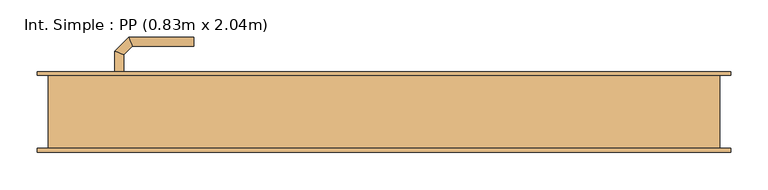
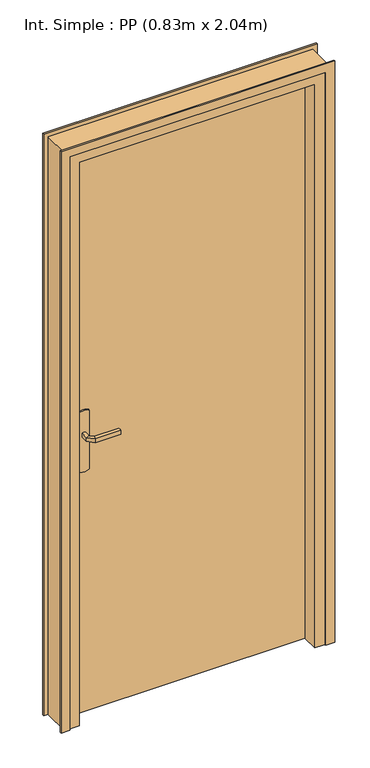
"""IFC4 building model written with IfcOpenShell, lengths in millimetres: door geometry, Int. Simple : PP (0.83m x 2.04m)."""

from ifc_helpers import new_model, si_unit, point, frame, frame_2d, origin, origin_with_axes, place, context, project, spatial, polyline, circle_curve, ellipse_curve, trimmed, segment, composite_curve, outline, extrude, faceted_brep, source, transform, mapped, element, save
from ifc_brep_helpers import plane_surface, cylinder_surface, advanced_brep


def int_simple_pp_0_83m_x_2_04m_020da29c(model_context):
    return source(origin(), model_context, "Body", "SolidModel", [
        extrude(outline(composite_curve([segment(trimmed(circle_curve(frame_2d((904.6410162, -390.0)), 40.0), [point((870.0, -410.0))], [point((870.0, -370.0))], False, "CARTESIAN"), True, "CONTINUOUS"), segment(polyline([(870.0, -370.0), (1080.0, -370.0)]), True, "CONTINUOUS"), segment(trimmed(circle_curve(frame_2d((1045.3589838, -390.0)), 40.0), [point((1080.0, -370.0))], [point((1080.0, -410.0))], False, "CARTESIAN"), True, "CONTINUOUS"), segment(polyline([(1080.0, -410.0), (870.0, -410.0)]), True, "CONTINUOUS")], self_intersect=False)), frame((0.0, 49.0, 0.0), z_axis=(0.0, 1.0, 0.0), x_axis=(0.0, 0.0, 1.0)), (0.0, 0.0, 1.0), 5.0),
        extrude(outline(composite_curve([segment(trimmed(circle_curve(frame_2d((1045.3589838, -390.0)), 40.0), [point((1080.0, -370.0))], [point((1080.0, -410.0))], False, "CARTESIAN"), True, "CONTINUOUS"), segment(polyline([(1080.0, -410.0), (870.0, -410.0)]), True, "CONTINUOUS"), segment(trimmed(circle_curve(frame_2d((904.6410162, -390.0)), 40.0), [point((870.0, -410.0))], [point((870.0, -370.0))], False, "CARTESIAN"), True, "CONTINUOUS"), segment(polyline([(870.0, -370.0), (1080.0, -370.0)]), True, "CONTINUOUS")], self_intersect=False)), frame((0.0, 4.0, 0.0), z_axis=(0.0, 1.0, 0.0), x_axis=(0.0, 0.0, 1.0)), (0.0, 0.0, 1.0), 5.0),
        advanced_brep(
        [(-396.0, 54.0, 1007.0), (-396.0, 54.0, 993.0), (-384.0, 54.0, 993.0), (-384.0, 54.0, 1007.0), (-384.0, 76.680388, 1007.0), (-396.0, 81.6509507, 1007.0), (-384.0, 76.680388, 993.0), (-396.0, 81.6509507, 993.0), (-372.6522273, 88.0281607, 1007.0), (-377.62279, 100.0281607, 1007.0), (-372.6522273, 88.0281607, 993.0), (-377.62279, 100.0281607, 993.0), (-289.9813594, 100.0281607, 1007.0), (-289.9813594, 88.0281607, 1007.0), (-289.9813594, 88.0281607, 993.0), (-289.9813594, 100.0281607, 993.0)],
        [
            (0, 1),
            (1, 2, circle_curve(frame((-390.0, 54.0, 1013.0457722), z_axis=(0.0, -1.0, 0.0), x_axis=(1.0, 0.0, 0.0)), 20.9244589)),
            (2, 3),
            (3, 0, circle_curve(frame((-390.0, 54.0, 986.9542278), z_axis=(0.0, -1.0, 0.0), x_axis=(1.0, 0.0, 0.0)), 20.9244589)),
            (3, 4),
            (4, 5, ellipse_curve(frame((-390.0, 79.1656693, 986.9542278), z_axis=(-0.3826834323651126, -0.9238795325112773, 0.0), x_axis=(0.9238795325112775, -0.38268343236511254, 0.0)), 22.6484711, 20.9244589)),
            (5, 0),
            (2, 6),
            (6, 4),
            (1, 7),
            (7, 6, ellipse_curve(frame((-390.0, 79.1656693, 1013.0457722), z_axis=(-0.3826834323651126, -0.9238795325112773, 0.0), x_axis=(0.9238795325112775, -0.38268343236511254, 0.0)), 22.6484711, 20.9244589)),
            (5, 7),
            (4, 8),
            (8, 9, ellipse_curve(frame((-375.1375086, 94.0281607, 986.9542278), z_axis=(-0.9238795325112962, -0.38268343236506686, 0.0), x_axis=(0.3826834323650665, -0.9238795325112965, 0.0)), 22.6484711, 20.9244589)),
            (9, 5),
            (6, 10),
            (10, 8),
            (7, 11),
            (11, 10, ellipse_curve(frame((-375.1375086, 94.0281607, 1013.0457722), z_axis=(-0.9238795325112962, -0.38268343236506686, 0.0), x_axis=(0.3826834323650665, -0.9238795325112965, 0.0)), 22.6484711, 20.9244589)),
            (9, 11),
            (12, 13, circle_curve(frame((-289.9813594, 94.0281607, 986.9542278), z_axis=(1.0, 0.0, 0.0), x_axis=(0.0, -1.0, 0.0)), 20.9244589)),
            (13, 14),
            (14, 15, circle_curve(frame((-289.9813594, 94.0281607, 1013.0457722), z_axis=(1.0, 0.0, 0.0), x_axis=(0.0, -1.0, 0.0)), 20.9244589)),
            (15, 12),
            (8, 13),
            (12, 9),
            (10, 14),
            (11, 15),
        ],
        [
            plane_surface(frame((-399.2195445, 54.0, 1000.0), z_axis=(0.0, -1.0, 0.0), x_axis=(0.0, 0.0, -1.0))),
            cylinder_surface(frame((-390.0, 54.0, 986.9542278), z_axis=(0.0, -1.0, 0.0), x_axis=(1.0, 0.0, 0.0)), 20.9244589),
            plane_surface(frame((-384.0, 54.0, 1007.0), z_axis=(1.0, 0.0, 0.0), x_axis=(0.0, 1.0, 0.0))),
            cylinder_surface(frame((-390.0, 54.0, 1013.0457722), z_axis=(0.0, -1.0, 0.0), x_axis=(1.0, 0.0, 0.0)), 20.9244589),
            plane_surface(frame((-396.0, 54.0, 993.0), z_axis=(-1.0, 0.0, 0.0), x_axis=(0.0, 1.0, 0.0))),
            cylinder_surface(frame((-390.0, 79.1656693, 986.9542278), z_axis=(-0.7071067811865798, -0.7071067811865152, 0.0), x_axis=(0.7071067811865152, -0.7071067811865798, 0.0)), 20.9244589),
            plane_surface(frame((-384.0, 76.680388, 1007.0), z_axis=(0.7071067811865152, -0.7071067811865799, 0.0), x_axis=(0.7071067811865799, 0.7071067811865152, 0.0))),
            cylinder_surface(frame((-390.0, 79.1656693, 1013.0457722), z_axis=(-0.7071067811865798, -0.7071067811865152, 0.0), x_axis=(0.7071067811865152, -0.7071067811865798, 0.0)), 20.9244589),
            plane_surface(frame((-396.0, 81.6509507, 993.0), z_axis=(-0.7071067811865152, 0.7071067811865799, 0.0), x_axis=(0.7071067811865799, 0.7071067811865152, 0.0))),
            plane_surface(frame((-289.9813594, 94.0281607, 990.7804555), z_axis=(1.0, 0.0, 0.0), x_axis=(0.0, -1.0, 0.0))),
            cylinder_surface(frame((-375.1375086, 94.0281607, 986.9542278), z_axis=(-1.0, 0.0, 0.0), x_axis=(0.0, -1.0, 0.0)), 20.9244589),
            plane_surface(frame((-372.6522273, 88.0281607, 1007.0), z_axis=(0.0, -1.0, 0.0), x_axis=(1.0, 0.0, 0.0))),
            cylinder_surface(frame((-375.1375086, 94.0281607, 1013.0457722), z_axis=(-1.0, 0.0, 0.0), x_axis=(0.0, -1.0, 0.0)), 20.9244589),
            plane_surface(frame((-377.62279, 100.0281607, 993.0), z_axis=(0.0, 1.0, 0.0), x_axis=(1.0, 0.0, 0.0))),
        ],
        [
            (0, [[1, 2, 3, 4]]),
            (1, [[5, 6, 7, -4]]),
            (2, [[8, 9, -5, -3]]),
            (3, [[10, 11, -8, -2]]),
            (4, [[-7, 12, -10, -1]]),
            (5, [[13, 14, 15, -6]]),
            (6, [[16, 17, -13, -9]]),
            (7, [[18, 19, -16, -11]]),
            (8, [[-15, 20, -18, -12]]),
            (9, [[21, 22, 23, 24]]),
            (10, [[25, -21, 26, -14]]),
            (11, [[27, -22, -25, -17]]),
            (12, [[28, -23, -27, -19]]),
            (13, [[-26, -24, -28, -20]]),
        ],
    ),
        advanced_brep(
        [(-384.0, 4.0, 993.0), (-396.0, 4.0, 993.0), (-396.0, 4.0, 1007.0), (-384.0, 4.0, 1007.0), (-384.0, -18.4852045, 1007.0), (-384.0, -18.4852045, 993.0), (-396.0, -23.4557673, 1007.0), (-396.0, -23.4557673, 993.0), (-372.5147186, -29.9704859, 1007.0), (-372.5147186, -29.9704859, 993.0), (-377.4852814, -41.9704859, 1007.0), (-377.4852814, -41.9704859, 993.0), (-289.9542163, -29.9704859, 993.0), (-289.9542163, -29.9704859, 1007.0), (-289.9542163, -41.9704859, 1007.0), (-289.9542163, -41.9704859, 993.0)],
        [
            (0, 1, circle_curve(frame((-390.0, 4.0, 1013.0457722), z_axis=(0.0, 1.0, 0.0), x_axis=(-1.0, 0.0, 0.0)), 20.9244589)),
            (1, 2),
            (2, 3, circle_curve(frame((-390.0, 4.0, 986.9542278), z_axis=(0.0, 1.0, 0.0), x_axis=(-1.0, 0.0, 0.0)), 20.9244589)),
            (3, 0),
            (3, 4),
            (4, 5),
            (5, 0),
            (2, 6),
            (6, 4, ellipse_curve(frame((-390.0, -20.9704859, 986.9542278), z_axis=(-0.3826834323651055, 0.9238795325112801, 0.0), x_axis=(0.9238795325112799, 0.3826834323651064, 0.0)), 22.6484711, 20.9244589)),
            (1, 7),
            (7, 6),
            (5, 7, ellipse_curve(frame((-390.0, -20.9704859, 1013.0457722), z_axis=(-0.3826834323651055, 0.9238795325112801, 0.0), x_axis=(0.9238795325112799, 0.3826834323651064, 0.0)), 22.6484711, 20.9244589)),
            (4, 8),
            (8, 9),
            (9, 5),
            (6, 10),
            (10, 8, ellipse_curve(frame((-375.0, -35.9704859, 986.9542278), z_axis=(-0.9238795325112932, 0.382683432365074, 0.0), x_axis=(0.3826834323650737, 0.9238795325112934, 0.0)), 22.6484711, 20.9244589)),
            (7, 11),
            (11, 10),
            (9, 11, ellipse_curve(frame((-375.0, -35.9704859, 1013.0457722), z_axis=(-0.9238795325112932, 0.382683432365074, 0.0), x_axis=(0.3826834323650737, 0.9238795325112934, 0.0)), 22.6484711, 20.9244589)),
            (12, 13),
            (13, 14, circle_curve(frame((-289.9542163, -35.9704859, 986.9542278), z_axis=(1.0, 0.0, 0.0), x_axis=(0.0, -1.0, 0.0)), 20.9244589)),
            (14, 15),
            (15, 12, circle_curve(frame((-289.9542163, -35.9704859, 1013.0457722), z_axis=(1.0, 0.0, 0.0), x_axis=(0.0, -1.0, 0.0)), 20.9244589)),
            (8, 13),
            (12, 9),
            (10, 14),
            (11, 15),
        ],
        [
            plane_surface(frame((-399.2195445, 4.0, 1000.0), z_axis=(0.0, 1.0, 0.0), x_axis=(0.0, 0.0, 1.0))),
            plane_surface(frame((-384.0, 4.0, 993.0), z_axis=(1.0, 0.0, 0.0), x_axis=(0.0, -1.0, 0.0))),
            cylinder_surface(frame((-390.0, 4.0, 986.9542278), z_axis=(0.0, 1.0, 0.0), x_axis=(-1.0, 0.0, 0.0)), 20.9244589),
            plane_surface(frame((-396.0, 4.0, 1007.0), z_axis=(-1.0, 0.0, 0.0), x_axis=(0.0, -1.0, 0.0))),
            cylinder_surface(frame((-390.0, 4.0, 1013.0457722), z_axis=(0.0, 1.0, 0.0), x_axis=(-1.0, 0.0, 0.0)), 20.9244589),
            plane_surface(frame((-384.0, -18.4852045, 993.0), z_axis=(0.7071067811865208, 0.7071067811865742, 0.0), x_axis=(0.7071067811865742, -0.7071067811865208, 0.0))),
            cylinder_surface(frame((-390.0, -20.9704859, 986.9542278), z_axis=(-0.7071067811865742, 0.7071067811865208, 0.0), x_axis=(-0.7071067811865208, -0.7071067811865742, 0.0)), 20.9244589),
            plane_surface(frame((-396.0, -23.4557673, 1007.0), z_axis=(-0.7071067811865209, -0.7071067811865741, 0.0), x_axis=(0.7071067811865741, -0.7071067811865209, 0.0))),
            cylinder_surface(frame((-390.0, -20.9704859, 1013.0457722), z_axis=(-0.7071067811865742, 0.7071067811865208, 0.0), x_axis=(-0.7071067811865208, -0.7071067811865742, 0.0)), 20.9244589),
            plane_surface(frame((-289.9542163, -35.9704859, 990.7804555), z_axis=(1.0, 0.0, 0.0), x_axis=(0.0, -1.0, 0.0))),
            plane_surface(frame((-372.5147186, -29.9704859, 993.0), z_axis=(0.0, 1.0, 0.0), x_axis=(1.0, 0.0, 0.0))),
            cylinder_surface(frame((-375.0, -35.9704859, 986.9542278), z_axis=(-1.0, 0.0, 0.0), x_axis=(0.0, -1.0, 0.0)), 20.9244589),
            plane_surface(frame((-377.4852814, -41.9704859, 1007.0), z_axis=(0.0, -1.0, 0.0), x_axis=(1.0, 0.0, 0.0))),
            cylinder_surface(frame((-375.0, -35.9704859, 1013.0457722), z_axis=(-1.0, 0.0, 0.0), x_axis=(0.0, -1.0, 0.0)), 20.9244589),
        ],
        [
            (0, [[1, 2, 3, 4]]),
            (1, [[5, 6, 7, -4]]),
            (2, [[8, 9, -5, -3]]),
            (3, [[10, 11, -8, -2]]),
            (4, [[-7, 12, -10, -1]]),
            (5, [[13, 14, 15, -6]]),
            (6, [[16, 17, -13, -9]]),
            (7, [[18, 19, -16, -11]]),
            (8, [[-15, 20, -18, -12]]),
            (9, [[21, 22, 23, 24]]),
            (10, [[25, -21, 26, -14]]),
            (11, [[27, -22, -25, -17]]),
            (12, [[28, -23, -27, -19]]),
            (13, [[-26, -24, -28, -20]]),
        ],
    ),
        extrude(outline(polyline([(-450.0, 9.0), (-450.0, 49.0), (380.0, 49.0), (380.0, 9.0), (-450.0, 9.0)])), origin_with_axes(), (0.0, 0.0, 1.0), 2040.0),
        faceted_brep([(-485.0, 49.0, 0.0), (-450.0, 49.0, 0.0), (-450.0, 9.0, 0.0), (-435.0, 9.0, 0.0), (-435.0, -49.0, 0.0), (-485.0, -49.0, 0.0), (-485.0, -49.0, 2075.0), (-485.0, 49.0, 2075.0), (-435.0, -49.0, 2025.0), (365.0, -49.0, 2025.0), (365.0, -49.0, 0.0), (415.0, -49.0, 0.0), (415.0, -49.0, 2075.0), (-435.0, 9.0, 2025.0), (-450.0, 9.0, 2040.0), (380.0, 9.0, 2040.0), (380.0, 9.0, 0.0), (365.0, 9.0, 0.0), (365.0, 9.0, 2025.0), (-450.0, 49.0, 2040.0), (415.0, 49.0, 2075.0), (415.0, 49.0, 0.0), (380.0, 49.0, 0.0), (380.0, 49.0, 2040.0)], [[[0, 1, 2, 3, 4, 5]], [[5, 6, 7, 0]], [[4, 8, 9, 10, 11, 12, 6, 5]], [[3, 13, 8, 4]], [[2, 14, 15, 16, 17, 18, 13, 3]], [[1, 19, 14, 2]], [[0, 7, 20, 21, 22, 23, 19, 1]], [[12, 11, 21, 20]], [[21, 11, 10, 17, 16, 22]], [[18, 17, 10, 9]], [[23, 22, 16, 15]], [[6, 12, 20, 7]], [[13, 18, 9, 8]], [[19, 23, 15, 14]]]),
        extrude(outline(polyline([(0.0, -470.0), (2060.0, -470.0), (2060.0, 400.0), (0.0, 400.0), (0.0, 430.0), (2090.0, 430.0), (2090.0, -500.0), (0.0, -500.0), (0.0, -470.0)])), frame((0.0, 49.0, 0.0), z_axis=(0.0, 1.0, 0.0), x_axis=(0.0, 0.0, 1.0)), (0.0, 0.0, 1.0), 5.0),
        extrude(outline(polyline([(0.0, -470.0), (2060.0, -470.0), (2060.0, 400.0), (0.0, 400.0), (0.0, 430.0), (2090.0, 430.0), (2090.0, -500.0), (0.0, -500.0), (0.0, -470.0)])), frame((0.0, -54.0, 0.0), z_axis=(0.0, 1.0, 0.0), x_axis=(0.0, 0.0, 1.0)), (0.0, 0.0, 1.0), 5.0),
    ])


if __name__ == "__main__":
    model = new_model("IFC4")
    model_context = context("Model", 3, world=origin())
    ifc_project = project(units=[si_unit("LENGTHUNIT", "METRE", prefix="MILLI")], contexts=[model_context])
    site = spatial("IfcSite", under=ifc_project)
    building = spatial("IfcBuilding", under=site)
    placement = place(None, origin())
    int_simple_pp_0_83m_x_2_04m_shape = int_simple_pp_0_83m_x_2_04m_020da29c(model_context)
    element("IfcDoor", 1, ObjectType="Int. Simple : PP (0.83m x 2.04m)", at=placement, inside=building, context=model_context, shape_type="MappedRepresentation", body=[
        mapped(int_simple_pp_0_83m_x_2_04m_shape, transform((0.0, 0.0, 0.0), x_axis=(1.0, 0.0, 0.0), y_axis=(0.0, 1.0, 0.0), z_axis=(0.0, 0.0, 1.0))),
    ])
    save(model, "model.ifc")
